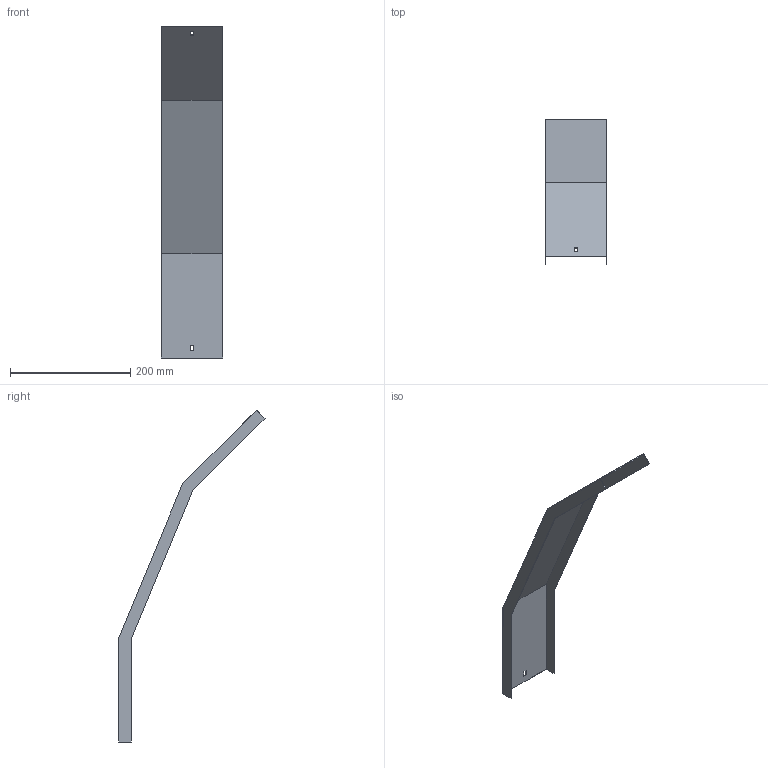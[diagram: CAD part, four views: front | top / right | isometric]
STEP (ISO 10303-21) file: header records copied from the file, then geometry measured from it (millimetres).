
FILE_DESCRIPTION (( 'STEP AP214' ), '1' );
FILE_NAME ('A2_34N3D100.step', '2025-02-21T10:34:41', ( '' ), ( '' ), 'SwSTEP 2.0', 'SolidWorks 2023', '' );
FILE_SCHEMA (( 'AUTOMOTIVE_DESIGN' ));
Length unit declared in the file: millimetre
Products named in the file (1): A2_34N3D100
Bounding box: 103 x 243.15 x 552.87 mm (x, y, z)
Volume: 130489.3 mm3; surface area: 176327.6 mm2
Topology: 1 solids, 1 shells, 26 faces, 72 edges, 48 vertices
Faces by surface type: plane 26
Entity records: 847 total; most frequent: CARTESIAN_POINT 147, ORIENTED_EDGE 144, DIRECTION 126, EDGE_CURVE 72, LINE 72, VECTOR 72, VERTEX_POINT 48, EDGE_LOOP 30
